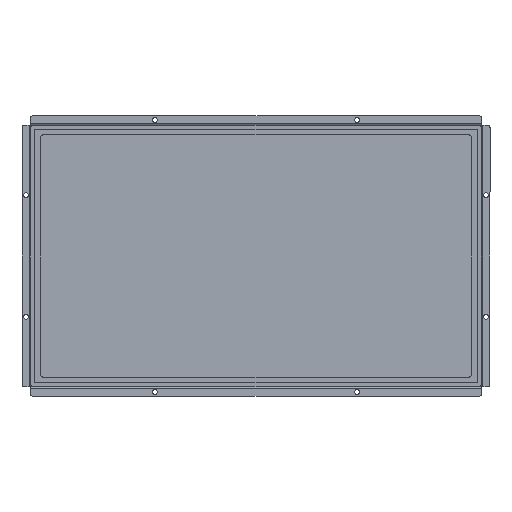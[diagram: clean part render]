
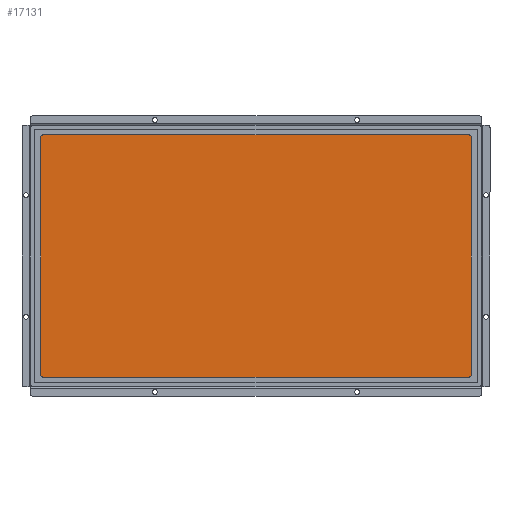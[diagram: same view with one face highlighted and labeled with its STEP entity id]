
A CAD part, front view. The second image highlights one B-rep face of the part: STEP entity #17131.
In plain terms, the highlighted planar face has unit normal (0, -1, 0) as drawn and (0, 0, 1) by its records, which use the part's own axes.
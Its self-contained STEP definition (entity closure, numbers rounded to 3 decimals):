
#988=FACE_OUTER_BOUND('',#1974,.T.);
#1974=EDGE_LOOP('',(#11298,#11299,#11300,#11301,#11302,#11303,#11304,#11305));
#3108=LINE('',#24171,#4882);
#3109=LINE('',#24175,#4883);
#3110=LINE('',#24179,#4884);
#3111=LINE('',#24182,#4885);
#4882=VECTOR('',#19793,10.);
#4883=VECTOR('',#19796,10.);
#4884=VECTOR('',#19799,10.);
#4885=VECTOR('',#19802,10.);
#6617=CIRCLE('',#18392,2.);
#6618=CIRCLE('',#18393,2.);
#6619=CIRCLE('',#18394,2.);
#6620=CIRCLE('',#18395,2.);
#7065=VERTEX_POINT('',#24167);
#7066=VERTEX_POINT('',#24168);
#7067=VERTEX_POINT('',#24170);
#7068=VERTEX_POINT('',#24172);
#7069=VERTEX_POINT('',#24174);
#7070=VERTEX_POINT('',#24176);
#7071=VERTEX_POINT('',#24178);
#7072=VERTEX_POINT('',#24180);
#8685=EDGE_CURVE('',#7065,#7066,#6617,.T.);
#8686=EDGE_CURVE('',#7067,#7065,#3108,.T.);
#8687=EDGE_CURVE('',#7068,#7067,#6618,.T.);
#8688=EDGE_CURVE('',#7069,#7068,#3109,.T.);
#8689=EDGE_CURVE('',#7070,#7069,#6619,.T.);
#8690=EDGE_CURVE('',#7071,#7070,#3110,.T.);
#8691=EDGE_CURVE('',#7072,#7071,#6620,.T.);
#8692=EDGE_CURVE('',#7066,#7072,#3111,.T.);
#11298=ORIENTED_EDGE('',*,*,#8685,.T.);
#11299=ORIENTED_EDGE('',*,*,#8692,.T.);
#11300=ORIENTED_EDGE('',*,*,#8691,.T.);
#11301=ORIENTED_EDGE('',*,*,#8690,.T.);
#11302=ORIENTED_EDGE('',*,*,#8689,.T.);
#11303=ORIENTED_EDGE('',*,*,#8688,.T.);
#11304=ORIENTED_EDGE('',*,*,#8687,.T.);
#11305=ORIENTED_EDGE('',*,*,#8686,.T.);
#16067=PLANE('',#18414);
#17131=ADVANCED_FACE('',(#988),#16067,.T.);
#18392=AXIS2_PLACEMENT_3D('',#24169,#19791,#19792);
#18393=AXIS2_PLACEMENT_3D('',#24173,#19794,#19795);
#18394=AXIS2_PLACEMENT_3D('',#24177,#19797,#19798);
#18395=AXIS2_PLACEMENT_3D('',#24181,#19800,#19801);
#18414=AXIS2_PLACEMENT_3D('',#24233,#19859,#19860);
#19791=DIRECTION('center_axis',(0.,0.,1.));
#19792=DIRECTION('ref_axis',(-1.,0.,0.));
#19793=DIRECTION('',(0.,1.,0.));
#19794=DIRECTION('center_axis',(0.,0.,1.));
#19795=DIRECTION('ref_axis',(0.,1.,0.));
#19796=DIRECTION('',(1.,0.,0.));
#19797=DIRECTION('center_axis',(0.,0.,1.));
#19798=DIRECTION('ref_axis',(1.,0.,0.));
#19799=DIRECTION('',(0.,-1.,0.));
#19800=DIRECTION('center_axis',(0.,0.,1.));
#19801=DIRECTION('ref_axis',(0.,-1.,0.));
#19802=DIRECTION('',(-1.,0.,0.));
#19859=DIRECTION('center_axis',(0.,0.,1.));
#19860=DIRECTION('ref_axis',(1.,0.,0.));
#24167=CARTESIAN_POINT('',(265.68,147.445,17.));
#24168=CARTESIAN_POINT('',(263.68,149.445,17.));
#24169=CARTESIAN_POINT('Origin',(263.68,147.445,17.));
#24170=CARTESIAN_POINT('',(265.68,-147.445,17.));
#24171=CARTESIAN_POINT('',(265.68,-73.723,17.));
#24172=CARTESIAN_POINT('',(263.68,-149.445,17.));
#24173=CARTESIAN_POINT('Origin',(263.68,-147.445,17.));
#24174=CARTESIAN_POINT('',(-263.68,-149.445,17.));
#24175=CARTESIAN_POINT('',(-131.84,-149.445,17.));
#24176=CARTESIAN_POINT('',(-265.68,-147.445,17.));
#24177=CARTESIAN_POINT('Origin',(-263.68,-147.445,17.));
#24178=CARTESIAN_POINT('',(-265.68,147.445,17.));
#24179=CARTESIAN_POINT('',(-265.68,73.723,17.));
#24180=CARTESIAN_POINT('',(-263.68,149.445,17.));
#24181=CARTESIAN_POINT('Origin',(-263.68,147.445,17.));
#24182=CARTESIAN_POINT('',(131.84,149.445,17.));
#24233=CARTESIAN_POINT('Origin',(0.,0.,17.));
